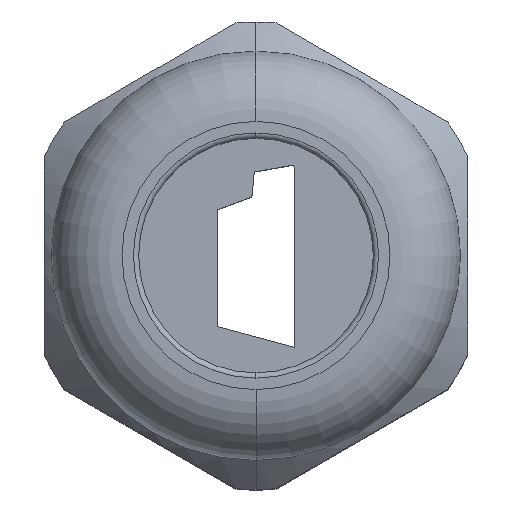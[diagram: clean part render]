
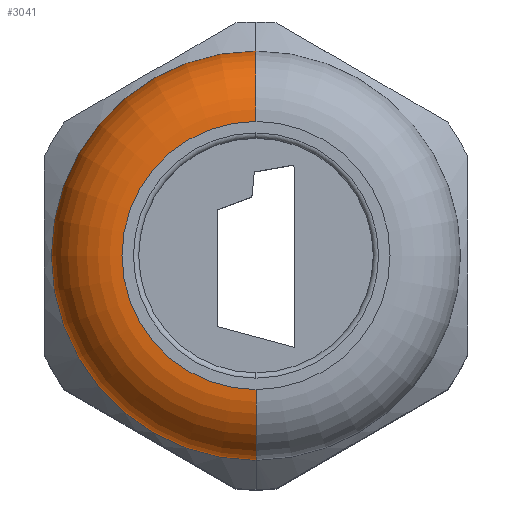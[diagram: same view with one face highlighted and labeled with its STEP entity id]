
A CAD part, top view. The second image highlights one B-rep face of the part: STEP entity #3041.
In plain terms, the highlighted toroidal (fillet/blend) face has major radius 7.6 mm and minor radius 4 mm.
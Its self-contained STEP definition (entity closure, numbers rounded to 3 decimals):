
#47 = EDGE_CURVE ( 'NONE', #228, #121, #938, .T. ) ;
#82 = VERTEX_POINT ( 'NONE', #1006 ) ;
#113 = EDGE_CURVE ( 'NONE', #227, #82, #1036, .T. ) ;
#121 = VERTEX_POINT ( 'NONE', #1013 ) ;
#227 = VERTEX_POINT ( 'NONE', #1245 ) ;
#228 = VERTEX_POINT ( 'NONE', #1244 ) ;
#935 = DIRECTION ( 'NONE',  ( 0., 1., 0. ) ) ;
#936 = DIRECTION ( 'NONE',  ( 1., 0., 0. ) ) ;
#937 = AXIS2_PLACEMENT_3D ( 'NONE', #976, #936, #935 ) ;
#938 = CIRCLE ( 'NONE', #937, 4. ) ;
#976 = CARTESIAN_POINT ( 'NONE',  ( 0., -7.6, 32. ) ) ;
#1006 = CARTESIAN_POINT ( 'NONE',  ( 0., 11.6, 32. ) ) ;
#1008 = DIRECTION ( 'NONE',  ( 0., 0., 1. ) ) ;
#1009 = DIRECTION ( 'NONE',  ( -1., 0., 0. ) ) ;
#1010 = CARTESIAN_POINT ( 'NONE',  ( 0., 7.6, 32. ) ) ;
#1011 = AXIS2_PLACEMENT_3D ( 'NONE', #1010, #1009, #1008 ) ;
#1013 = CARTESIAN_POINT ( 'NONE',  ( 0., -11.6, 32. ) ) ;
#1036 = CIRCLE ( 'NONE', #1011, 4. ) ;
#1244 = CARTESIAN_POINT ( 'NONE',  ( 0., -7.6, 36. ) ) ;
#1245 = CARTESIAN_POINT ( 'NONE',  ( 0., 7.6, 36. ) ) ;
#2414 = DIRECTION ( 'NONE',  ( 0., 1., 0. ) ) ;
#2485 = DIRECTION ( 'NONE',  ( 0., 0., -1. ) ) ;
#2486 = CARTESIAN_POINT ( 'NONE',  ( 0., 0., 32. ) ) ;
#2487 = AXIS2_PLACEMENT_3D ( 'NONE', #2486, #2485, #2414 ) ;
#2488 = CIRCLE ( 'NONE', #2487, 11.6 ) ;
#2601 = DIRECTION ( 'NONE',  ( 0., 1., 0. ) ) ;
#2602 = DIRECTION ( 'NONE',  ( 0., 0., -1. ) ) ;
#2603 = CARTESIAN_POINT ( 'NONE',  ( 0., 0., 36. ) ) ;
#2642 = AXIS2_PLACEMENT_3D ( 'NONE', #2603, #2602, #2601 ) ;
#2694 = CARTESIAN_POINT ( 'NONE',  ( 0., 0., 32. ) ) ;
#2695 = DIRECTION ( 'NONE',  ( 0., 1., 0. ) ) ;
#2696 = DIRECTION ( 'NONE',  ( 0., 0., -1. ) ) ;
#2697 = AXIS2_PLACEMENT_3D ( 'NONE', #2694, #2696, #2695 ) ;
#2698 = TOROIDAL_SURFACE ( 'NONE', #2697, 7.6, 4. ) ;
#2738 = CIRCLE ( 'NONE', #2642, 7.6 ) ;
#2739 = FACE_OUTER_BOUND ( 'NONE', #3042, .T. ) ;
#2922 = ORIENTED_EDGE ( 'NONE', *, *, #113, .T. ) ;
#2968 = EDGE_CURVE ( 'NONE', #121, #82, #2488, .T. ) ;
#2992 = ORIENTED_EDGE ( 'NONE', *, *, #2968, .F. ) ;
#3013 = ORIENTED_EDGE ( 'NONE', *, *, #3040, .T. ) ;
#3014 = ORIENTED_EDGE ( 'NONE', *, *, #47, .F. ) ;
#3040 = EDGE_CURVE ( 'NONE', #228, #227, #2738, .T. ) ;
#3041 = ADVANCED_FACE ( 'NONE', ( #2739 ), #2698, .T. ) ;
#3042 = EDGE_LOOP ( 'NONE', ( #3014, #3013, #2922, #2992 ) ) ;
